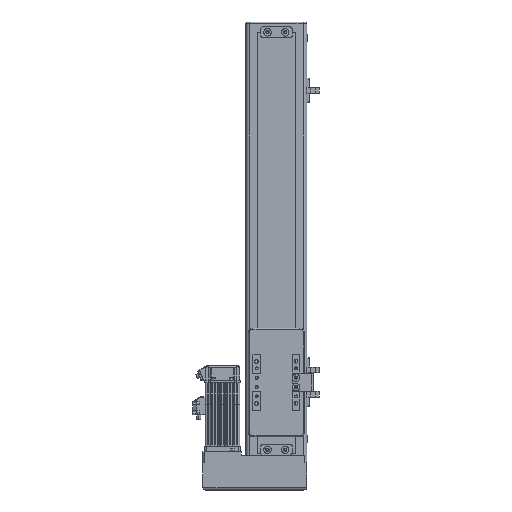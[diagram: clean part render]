
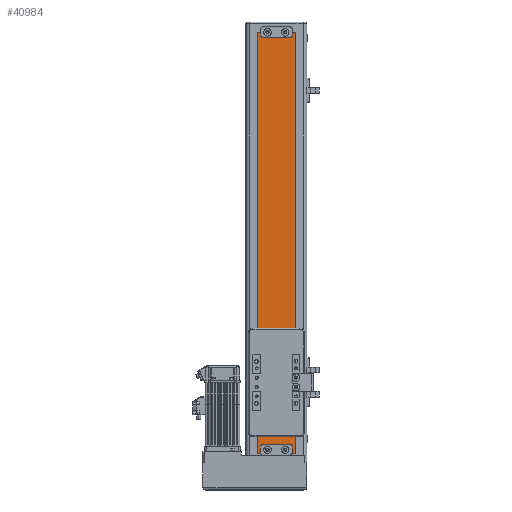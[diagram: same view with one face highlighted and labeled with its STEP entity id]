
A CAD part, front view. The second image highlights one B-rep face of the part: STEP entity #40984.
In plain terms, the highlighted planar face has unit normal (0, -1, 0) as drawn and (0, 1, 0) by its records, which use the part's own axes.
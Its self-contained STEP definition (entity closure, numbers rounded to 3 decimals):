
#384 = AXIS2_PLACEMENT_3D ( 'NONE', #12187, #35585, #15539 ) ;
#1246 = DIRECTION ( 'NONE',  ( 0., 0., 1. ) ) ;
#1986 = DIRECTION ( 'NONE',  ( 1., 0., 0. ) ) ;
#2146 = EDGE_CURVE ( 'NONE', #31835, #35151, #18178, .T. ) ;
#2434 = EDGE_CURVE ( 'NONE', #35151, #27167, #31208, .T. ) ;
#6332 = CARTESIAN_POINT ( 'NONE',  ( -20., 43.8, 1. ) ) ;
#7138 = ORIENTED_EDGE ( 'NONE', *, *, #2434, .T. ) ;
#11692 = CARTESIAN_POINT ( 'NONE',  ( 20., 43.8, 451. ) ) ;
#11697 = LINE ( 'NONE', #42213, #37397 ) ;
#11982 = CARTESIAN_POINT ( 'NONE',  ( -20., 43.8, 451. ) ) ;
#12187 = CARTESIAN_POINT ( 'NONE',  ( 0., 43.8, 0. ) ) ;
#14445 = VECTOR ( 'NONE', #1246, 1000. ) ;
#15412 = PLANE ( 'NONE',  #384 ) ;
#15539 = DIRECTION ( 'NONE',  ( 0., 0., 1. ) ) ;
#16174 = CARTESIAN_POINT ( 'NONE',  ( 20., 43.8, 1. ) ) ;
#17176 = FACE_OUTER_BOUND ( 'NONE', #41203, .T. ) ;
#18178 = LINE ( 'NONE', #6332, #35928 ) ;
#18244 = ORIENTED_EDGE ( 'NONE', *, *, #32284, .T. ) ;
#18363 = CARTESIAN_POINT ( 'NONE',  ( 20., 43.8, 1. ) ) ;
#21690 = DIRECTION ( 'NONE',  ( 0., 0., -1. ) ) ;
#25468 = LINE ( 'NONE', #18363, #42254 ) ;
#27167 = VERTEX_POINT ( 'NONE', #11982 ) ;
#29774 = DIRECTION ( 'NONE',  ( -1., 0., 0. ) ) ;
#29825 = ORIENTED_EDGE ( 'NONE', *, *, #2146, .T. ) ;
#31208 = LINE ( 'NONE', #38112, #14445 ) ;
#31835 = VERTEX_POINT ( 'NONE', #16174 ) ;
#32284 = EDGE_CURVE ( 'NONE', #27167, #43396, #11697, .T. ) ;
#35151 = VERTEX_POINT ( 'NONE', #37441 ) ;
#35585 = DIRECTION ( 'NONE',  ( 0., 1., 0. ) ) ;
#35809 = EDGE_CURVE ( 'NONE', #43396, #31835, #25468, .T. ) ;
#35928 = VECTOR ( 'NONE', #29774, 1000. ) ;
#37397 = VECTOR ( 'NONE', #1986, 1000. ) ;
#37441 = CARTESIAN_POINT ( 'NONE',  ( -20., 43.8, 1. ) ) ;
#38112 = CARTESIAN_POINT ( 'NONE',  ( -20., 43.8, 1. ) ) ;
#40984 = ADVANCED_FACE ( 'NONE', ( #17176 ), #15412, .T. ) ;
#41203 = EDGE_LOOP ( 'NONE', ( #7138, #18244, #42561, #29825 ) ) ;
#42213 = CARTESIAN_POINT ( 'NONE',  ( -20., 43.8, 451. ) ) ;
#42254 = VECTOR ( 'NONE', #21690, 1000. ) ;
#42561 = ORIENTED_EDGE ( 'NONE', *, *, #35809, .T. ) ;
#43396 = VERTEX_POINT ( 'NONE', #11692 ) ;
